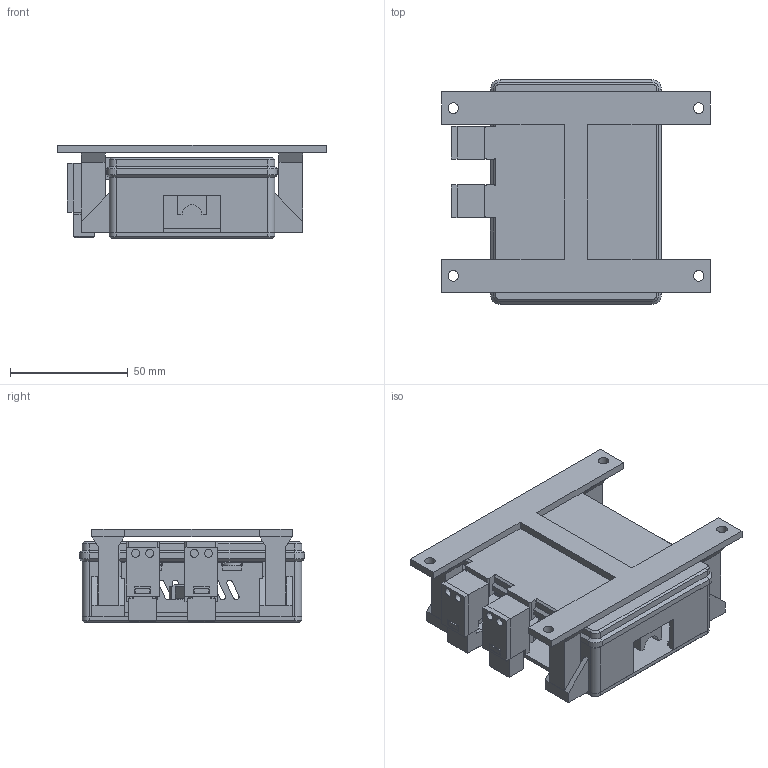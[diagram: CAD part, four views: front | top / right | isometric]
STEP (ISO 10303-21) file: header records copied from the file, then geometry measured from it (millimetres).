
FILE_DESCRIPTION(('Open CASCADE Model'),'2;1');
FILE_NAME('Open CASCADE Shape Model','2026-10-19T19:26:22',('Author'),( 'Open CASCADE'),'Open CASCADE STEP processor 7.9','build123d', 'Unknown');
FILE_SCHEMA(('AUTOMOTIVE_DESIGN { 1 0 10303 214 1 1 1 1 }'));
Length unit declared in the file: millimetre
Products named in the file (16): COMPOUND
Assembly tree (15 placements, depth 2):
  COMPOUND
    COMPOUND
    COMPOUND
    COMPOUND
    COMPOUND
    COMPOUND
    COMPOUND
    COMPOUND
    COMPOUND
    COMPOUND
    COMPOUND
    COMPOUND
    COMPOUND
    COMPOUND
    COMPOUND
    COMPOUND
Bounding box: 114.3 x 95.7 x 39.6 mm (x, y, z)
Volume: 94381 mm3; surface area: 74331.6 mm2
Topology: 15 solids, 15 shells, 661 faces, 1698 edges, 1107 vertices
Faces by surface type: plane 522, cylinder 123, cone 16
Full cylindrical faces by diameter (mm): 3.4 x22, 4 x18, 4.5 x4
Entity records: 41672 total; most frequent: CARTESIAN_POINT 8452, DIRECTION 5650, LINE 3636, VECTOR 3636, ORIENTED_EDGE 3396, PCURVE 3396, DEFINITIONAL_REPRESENTATION 3396, EDGE_CURVE 1698
